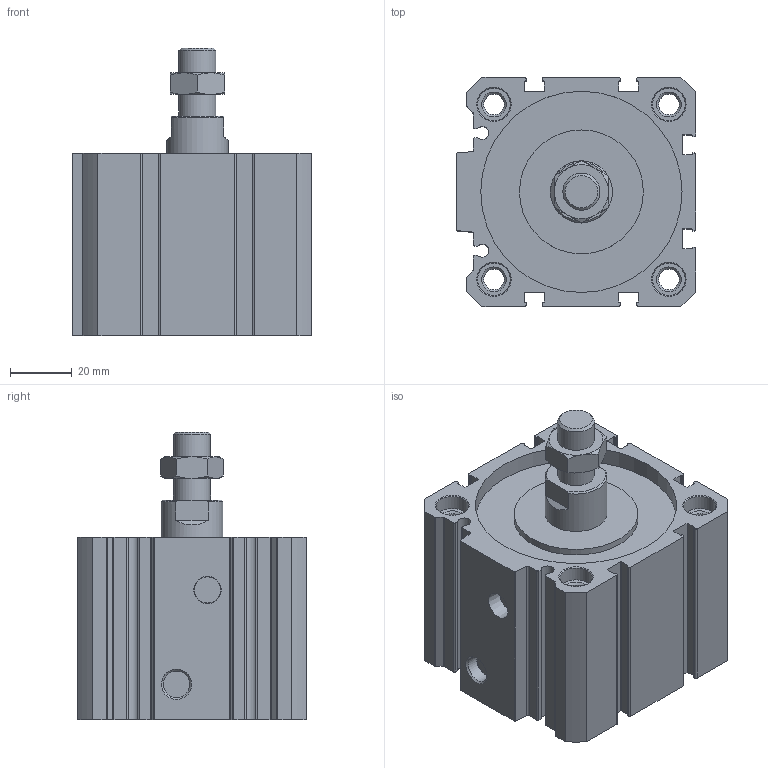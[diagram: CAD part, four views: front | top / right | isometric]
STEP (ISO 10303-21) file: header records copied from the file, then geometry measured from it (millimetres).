
FILE_DESCRIPTION( ( 'STEP AP214' ), '1' );
FILE_NAME( 'C:/Users/EMC02301/Desktop/RU0638 SF外牙 图纸/SF63X10-S-M.stp', '2026-07-24T09:57:44', ( 'License CC BY-ND 4.0' ), ( 'CADENAS' ), ' ', 'PARTsolutions', ' ' );
FILE_SCHEMA( ( 'AUTOMOTIVE_DESIGN { 1 0 10303 214 1 1 1 1 }' ) );
Length unit declared in the file: millimetre
Products named in the file (3): SF63X10-S-M()(04); _SF63X10()(_body) ; _SF63X10-M(rod-0)
Assembly tree (2 placements, depth 2):
  SF63X10-S-M()(04)
    _SF63X10()(_body) 
    _SF63X10-M(rod-0)
Bounding box: 77.5 x 74 x 93 mm (x, y, z)
Volume: 261460.1 mm3; surface area: 63301.9 mm2
Topology: 2 solids, 2 shells, 221 faces, 566 edges, 368 vertices
Faces by surface type: plane 99, cylinder 88, cone 34
Full cylindrical faces by diameter (mm): 6.647 x4, 8.566 x1, 10.5 x8, 12 x2, 20 x2, 40 x1, 63 x3, 65 x1
Entity records: 8414 total; most frequent: CARTESIAN_POINT 1256, DIRECTION 1154, ORIENTED_EDGE 1040, EDGE_CURVE 520, AXIS2_PLACEMENT_3D 438, VERTEX_POINT 364, EDGE_LOOP 290, LINE 278
